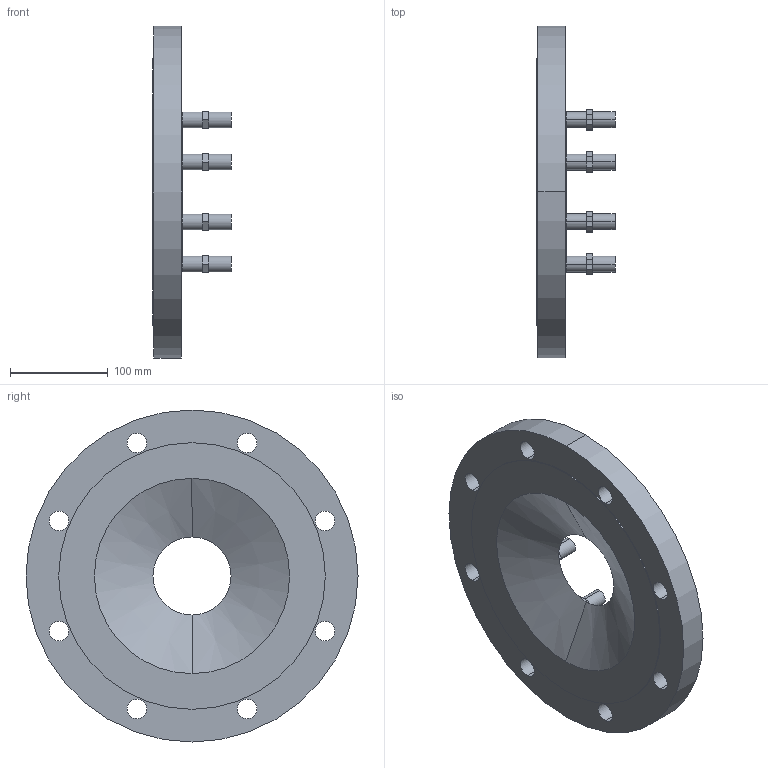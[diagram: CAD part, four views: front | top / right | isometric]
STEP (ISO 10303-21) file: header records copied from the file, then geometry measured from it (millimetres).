
FILE_DESCRIPTION(('STEP AP214'),'1');
FILE_NAME('S:/EK/USER/CAT6/3DHomepage_27-04-2012/VDI-Rohrsysteme_und_Stahlrohre/0802_(8110)/0802_PN10_DN200_DN80.STP','2013-01-25T08:09:58',(' '),(' '),'Spatial InterOp 3D',' ',' ');
FILE_SCHEMA(('automotive_design'));
Length unit declared in the file: millimetre
Products named in the file (18): 3D-Objekt
Bounding box: 80 x 340 x 340 mm (x, y, z)
Volume: 2150879.4 mm3; surface area: 293939.2 mm2
Topology: 18 solids, 18 shells, 127 faces, 270 edges, 180 vertices
Faces by surface type: plane 85, cylinder 40, cone 2
Entity records: 4900 total; most frequent: DIRECTION 644, CARTESIAN_POINT 595, ORIENTED_EDGE 540, EDGE_CURVE 270, AXIS2_PLACEMENT_3D 229, LINE 186, VECTOR 186, VERTEX_POINT 180
